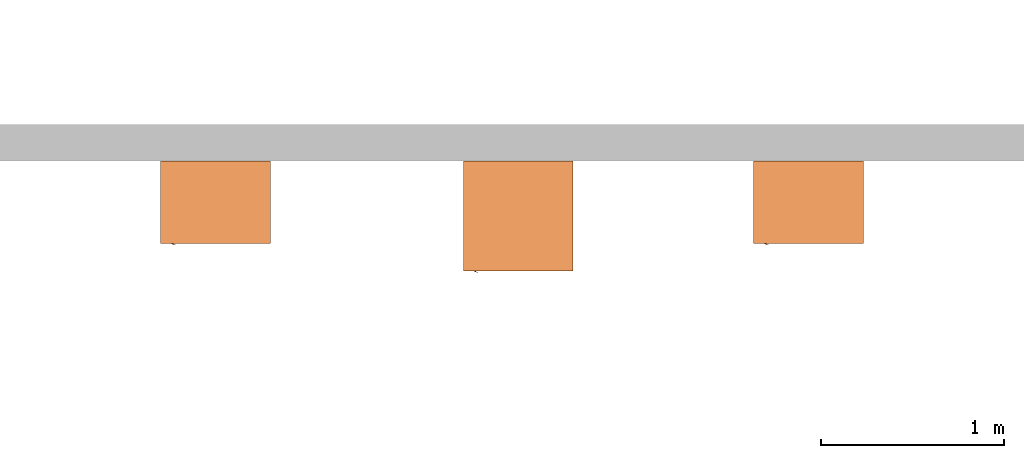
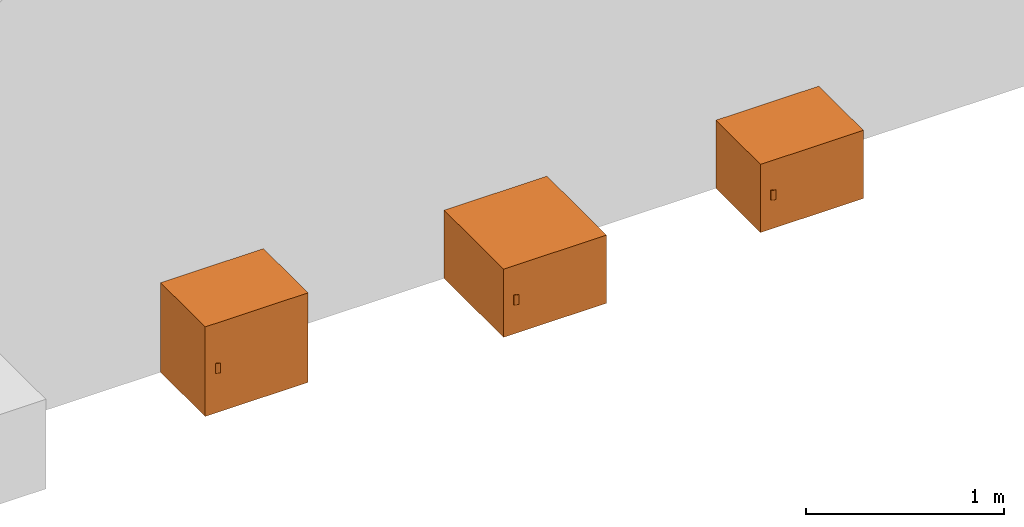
# One storey, part 50 of 197: 3 proxies.
"""IFC2X3 building model written with IfcOpenShell, lengths in metres."""

from ifc_helpers import new_model, entity, si_unit, converted_unit, direction, frame, frame_2d, origin, origin_2d_with_axis, place, context, subcontext, project, spatial, polyline, circle_curve, parameter, trimmed, segment, composite_curve, rectangle, outline, extrude, source, transform, mapped, material, material_list, type_object, type_shapes, element, save


model = new_model("IFC2X3")

# Units and contexts
model_context = context("Model", 3, precision=1e-05, world=origin(), true_north=direction((6.123031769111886e-17, 1.0)))
body_context = subcontext(model_context, "Body", "Model", "MODEL_VIEW")
ifc_project = project(units=[si_unit("LENGTHUNIT", "METRE"), converted_unit("PLANEANGLEUNIT", "DEGREE", entity("IfcPlaneAngleMeasure", 0.017453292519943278), si_unit("PLANEANGLEUNIT", "RADIAN"), dimensions=[0, 0, 0, 0, 0, 0, 0]), si_unit("AREAUNIT", "SQUARE_METRE")], contexts=[model_context])

# Site, building, storey
site_placement = place(None, origin())
site = spatial("IfcSite", under=ifc_project, at=site_placement, Name="Default", CompositionType="ELEMENT")
building_placement = place(site_placement, origin())
building = spatial("IfcBuilding", under=site, at=building_placement, CompositionType="ELEMENT")
storey_placement = place(building_placement, origin())
storey = spatial("IfcBuildingStorey", under=building, at=storey_placement, Name="Niveau 0", CompositionType="ELEMENT", Elevation=0.0)

# Proxies
ifc_material_1 = material(Name="A-PVC NOIR")
ifc_material_2 = material(Name="A-VERRE")
ifc_material_list = material_list([ifc_material_1, ifc_material_2])
building_element_proxy_type_1 = type_object("IfcBuildingElementProxyType", Name="Coffret de brassage mural:9U-600x450x500", PredefinedType="NOTDEFINED", material=ifc_material_list)
shared_shape_1 = source(origin(), body_context, "Body", "SweptSolid", [
    extrude(outline(composite_curve([segment(polyline([(0.0008223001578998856, -0.003777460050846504), (0.010844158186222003, -0.003777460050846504)]), True, "CONTINUOUS"), segment(polyline([(0.010844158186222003, -0.003777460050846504), (0.010844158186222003, -0.002873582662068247)]), True, "CONTINUOUS"), segment(trimmed(circle_curve(frame_2d((0.008844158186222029, -0.002873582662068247), x_axis=(-1.0, 0.0)), 0.002), [parameter(180.00000000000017)], [parameter(238.15936917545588)], True, "PARAMETER"), True, "CONTINUOUS"), segment(trimmed(circle_curve(frame_2d((-0.01427815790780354, -0.040107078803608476), x_axis=(-1.0, 0.0)), 0.04582892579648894), [parameter(238.1593691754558)], [parameter(270.2235478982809)], True, "PARAMETER"), True, "CONTINUOUS"), segment(polyline([(-0.01445696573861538, 0.005721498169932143), (-0.01445696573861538, 0.004721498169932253)]), True, "CONTINUOUS"), segment(polyline([(-0.01445696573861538, 0.004721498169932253), (-0.003495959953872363, 0.0011600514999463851)]), True, "CONTINUOUS"), segment(trimmed(circle_curve(frame_2d((-0.005473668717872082, -0.0049267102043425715), x_axis=(-1.0, 0.0)), 0.0064), [parameter(190.34473412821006)], [parameter(251.99999999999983)], True, "PARAMETER"), False, "CONTINUOUS")], self_intersect=False)), frame((-0.23015584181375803, -0.22877746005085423, 0.24599999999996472), z_axis=(0.0, 0.0, 1.0), x_axis=(-1.0, 0.0, 0.0)), (0.0, 0.0, 1.0), 0.06000000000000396),
    extrude(rectangle(XDim=0.4999999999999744, YDim=0.005000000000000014, at=origin_2d_with_axis()), frame((0.0, -0.22250000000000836, 0.05199999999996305)), (0.0, 0.0, 1.0), 0.4479999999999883),
    extrude(rectangle(XDim=0.5999999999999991, YDim=0.4499999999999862, at=origin_2d_with_axis()), frame((0.0, 0.0, 0.49999999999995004), z_axis=(0.0, 0.0, 1.0), x_axis=(-1.0, 0.0, 0.0)), (0.0, 0.0, 1.0), 0.05200000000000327),
    extrude(rectangle(XDim=0.6000000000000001, YDim=0.4499999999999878, at=origin_2d_with_axis()), frame((0.0, 0.0, 0.0), z_axis=(0.0, 0.0, 1.0), x_axis=(-1.0, 0.0, 0.0)), (0.0, 0.0, 1.0), 0.052000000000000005),
    extrude(outline(polyline([(-0.2999999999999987, -0.3156999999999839), (0.3000000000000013, -0.3156999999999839), (0.3000000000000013, 0.1343000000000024), (0.24999999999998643, 0.1343000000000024), (0.24999999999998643, 0.02429999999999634), (0.22499999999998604, 0.02429999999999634), (0.22499999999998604, 0.023299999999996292), (0.2509999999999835, 0.023299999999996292), (0.2509999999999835, 0.13329999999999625), (0.2989999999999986, 0.13329999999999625), (0.2989999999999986, -0.31469999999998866), (-0.2989999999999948, -0.31469999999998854), (-0.2989999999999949, 0.13329999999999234), (-0.25099999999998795, 0.13329999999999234), (-0.25099999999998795, 0.023299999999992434), (-0.2249999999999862, 0.023299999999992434), (-0.2249999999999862, 0.02429999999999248), (-0.24999999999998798, 0.02429999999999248), (-0.24999999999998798, 0.13430000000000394), (-0.2999999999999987, 0.13430000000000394), (-0.2999999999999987, -0.3156999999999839)])), frame((0.0, -0.09070000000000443, 0.05199999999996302), z_axis=(0.0, 0.0, 1.0), x_axis=(-1.0, 0.0, 0.0)), (0.0, 0.0, 1.0), 0.4479999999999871),
])
type_shapes(building_element_proxy_type_1, [shared_shape_1])
proxy_1_placement = place(storey_placement, frame((-487.87159512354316, -51.377644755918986, 0.0)))
element("IfcBuildingElementProxy", 1, at=proxy_1_placement, inside=storey, type_object=building_element_proxy_type_1, material=ifc_material_list, Name="Coffret de brassage mural:9U-600x450x500", ObjectType="Coffret de brassage mural:9U-600x450x500", context=body_context, shape_type="MappedRepresentation", body=[
    mapped(shared_shape_1, transform((0.0, 0.0, 0.0), scale=1.0)),
])
building_element_proxy_type_2 = type_object("IfcBuildingElementProxyType", Name="Coffret de brassage mural:6U-600x600x368", PredefinedType="NOTDEFINED", material=ifc_material_list)
shared_shape_2 = source(origin(), body_context, "Body", "SweptSolid", [
    extrude(outline(composite_curve([segment(polyline([(0.0008223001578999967, -0.003777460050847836), (0.010844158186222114, -0.003777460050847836)]), True, "CONTINUOUS"), segment(polyline([(0.010844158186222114, -0.003777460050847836), (0.010844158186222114, -0.0028735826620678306)]), True, "CONTINUOUS"), segment(trimmed(circle_curve(frame_2d((0.008844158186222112, -0.0028735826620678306), x_axis=(-1.0, 0.0)), 0.002), [parameter(180.00000000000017)], [parameter(238.15936917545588)], True, "PARAMETER"), True, "CONTINUOUS"), segment(trimmed(circle_curve(frame_2d((-0.014278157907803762, -0.04010707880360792), x_axis=(-1.0, 0.0)), 0.04582892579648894), [parameter(238.1593691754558)], [parameter(270.2235478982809)], True, "PARAMETER"), True, "CONTINUOUS"), segment(polyline([(-0.014456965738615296, 0.0057214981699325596), (-0.014456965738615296, 0.004721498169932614)]), True, "CONTINUOUS"), segment(polyline([(-0.014456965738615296, 0.004721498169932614), (-0.0034959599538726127, 0.001160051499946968)]), True, "CONTINUOUS"), segment(trimmed(circle_curve(frame_2d((-0.005473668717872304, -0.004926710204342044), x_axis=(-1.0, 0.0)), 0.0064), [parameter(190.34473412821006)], [parameter(251.99999999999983)], True, "PARAMETER"), False, "CONTINUOUS")], self_intersect=False)), frame((-0.23015584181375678, -0.30377746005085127, 0.17999999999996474), z_axis=(0.0, 0.0, 1.0), x_axis=(-1.0, 0.0, 0.0)), (0.0, 0.0, 1.0), 0.06000000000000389),
    extrude(rectangle(XDim=0.4999999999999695, YDim=0.005000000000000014, at=origin_2d_with_axis()), frame((0.0, -0.2975000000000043, 0.05199999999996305)), (0.0, 0.0, 1.0), 0.3159999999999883),
    extrude(rectangle(XDim=0.5999999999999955, YDim=0.5999999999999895, at=origin_2d_with_axis()), frame((0.0, 0.0, 0.36799999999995), z_axis=(0.0, 0.0, 1.0), x_axis=(-1.0, 0.0, 0.0)), (0.0, 0.0, 1.0), 0.05200000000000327),
    extrude(rectangle(XDim=0.5999999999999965, YDim=0.5999999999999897, at=origin_2d_with_axis()), frame((0.0, 0.0, 0.0), z_axis=(0.0, 0.0, 1.0), x_axis=(-1.0, 0.0, 0.0)), (0.0, 0.0, 1.0), 0.052000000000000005),
    extrude(outline(polyline([(-0.2999999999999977, -0.435699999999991), (0.2999999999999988, -0.435699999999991), (0.2999999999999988, 0.16429999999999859), (0.24999999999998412, 0.16429999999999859), (0.24999999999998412, 0.05429999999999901), (0.2249999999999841, 0.05429999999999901), (0.2249999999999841, 0.053299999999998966), (0.2509999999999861, 0.053299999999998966), (0.2509999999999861, 0.16329999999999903), (0.29899999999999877, 0.16329999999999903), (0.29899999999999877, -0.4346999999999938), (-0.2989999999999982, -0.4346999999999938), (-0.2989999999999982, 0.16329999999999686), (-0.2509999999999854, 0.16329999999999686), (-0.2509999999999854, 0.05329999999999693), (-0.22499999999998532, 0.05329999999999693), (-0.22499999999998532, 0.05429999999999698), (-0.2499999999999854, 0.05429999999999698), (-0.2499999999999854, 0.16429999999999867), (-0.2999999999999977, 0.16429999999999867), (-0.2999999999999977, -0.435699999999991)])), frame((0.0, -0.13570000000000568, 0.05199999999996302), z_axis=(0.0, 0.0, 1.0), x_axis=(-1.0, 0.0, 0.0)), (0.0, 0.0, 1.0), 0.31599999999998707),
])
type_shapes(building_element_proxy_type_2, [shared_shape_2])
proxy_2_placement = place(storey_placement, frame((-486.21859512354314, -51.45264475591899, 0.0)))
element("IfcBuildingElementProxy", 2, at=proxy_2_placement, inside=storey, type_object=building_element_proxy_type_2, material=ifc_material_list, Name="Coffret de brassage mural:6U-600x600x368", ObjectType="Coffret de brassage mural:6U-600x600x368", context=body_context, shape_type="MappedRepresentation", body=[
    mapped(shared_shape_2, transform((0.0, 0.0, 0.0), scale=1.0)),
])
building_element_proxy_type_3 = type_object("IfcBuildingElementProxyType", Name="Coffret de brassage mural:6U-600x450x368", PredefinedType="NOTDEFINED", material=ifc_material_list)
shared_shape_3 = source(origin(), body_context, "Body", "SweptSolid", [
    extrude(outline(composite_curve([segment(polyline([(0.0008223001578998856, -0.003777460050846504), (0.010844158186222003, -0.003777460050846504)]), True, "CONTINUOUS"), segment(polyline([(0.010844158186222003, -0.003777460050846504), (0.010844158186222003, -0.002873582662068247)]), True, "CONTINUOUS"), segment(trimmed(circle_curve(frame_2d((0.008844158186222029, -0.002873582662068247), x_axis=(-1.0, 0.0)), 0.002), [parameter(180.00000000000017)], [parameter(238.15936917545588)], True, "PARAMETER"), True, "CONTINUOUS"), segment(trimmed(circle_curve(frame_2d((-0.01427815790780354, -0.040107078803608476), x_axis=(-1.0, 0.0)), 0.04582892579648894), [parameter(238.1593691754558)], [parameter(270.2235478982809)], True, "PARAMETER"), True, "CONTINUOUS"), segment(polyline([(-0.01445696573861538, 0.005721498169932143), (-0.01445696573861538, 0.004721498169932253)]), True, "CONTINUOUS"), segment(polyline([(-0.01445696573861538, 0.004721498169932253), (-0.003495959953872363, 0.0011600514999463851)]), True, "CONTINUOUS"), segment(trimmed(circle_curve(frame_2d((-0.005473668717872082, -0.0049267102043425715), x_axis=(-1.0, 0.0)), 0.0064), [parameter(190.34473412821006)], [parameter(251.99999999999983)], True, "PARAMETER"), False, "CONTINUOUS")], self_intersect=False)), frame((-0.23015584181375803, -0.22877746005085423, 0.17999999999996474), z_axis=(0.0, 0.0, 1.0), x_axis=(-1.0, 0.0, 0.0)), (0.0, 0.0, 1.0), 0.06000000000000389),
    extrude(rectangle(XDim=0.4999999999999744, YDim=0.005000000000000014, at=origin_2d_with_axis()), frame((0.0, -0.22250000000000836, 0.05199999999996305)), (0.0, 0.0, 1.0), 0.3159999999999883),
    extrude(rectangle(XDim=0.5999999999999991, YDim=0.4499999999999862, at=origin_2d_with_axis()), frame((0.0, 0.0, 0.36799999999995), z_axis=(0.0, 0.0, 1.0), x_axis=(-1.0, 0.0, 0.0)), (0.0, 0.0, 1.0), 0.05200000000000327),
    extrude(rectangle(XDim=0.6000000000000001, YDim=0.4499999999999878, at=origin_2d_with_axis()), frame((0.0, 0.0, 0.0), z_axis=(0.0, 0.0, 1.0), x_axis=(-1.0, 0.0, 0.0)), (0.0, 0.0, 1.0), 0.052000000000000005),
    extrude(outline(polyline([(-0.2999999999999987, -0.3156999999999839), (0.3000000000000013, -0.3156999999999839), (0.3000000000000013, 0.1343000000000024), (0.24999999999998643, 0.1343000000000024), (0.24999999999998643, 0.02429999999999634), (0.22499999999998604, 0.02429999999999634), (0.22499999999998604, 0.023299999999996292), (0.2509999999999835, 0.023299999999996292), (0.2509999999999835, 0.13329999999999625), (0.2989999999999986, 0.13329999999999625), (0.2989999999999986, -0.31469999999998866), (-0.2989999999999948, -0.31469999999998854), (-0.2989999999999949, 0.13329999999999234), (-0.25099999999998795, 0.13329999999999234), (-0.25099999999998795, 0.023299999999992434), (-0.2249999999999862, 0.023299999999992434), (-0.2249999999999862, 0.02429999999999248), (-0.24999999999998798, 0.02429999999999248), (-0.24999999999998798, 0.13430000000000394), (-0.2999999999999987, 0.13430000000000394), (-0.2999999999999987, -0.3156999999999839)])), frame((0.0, -0.09070000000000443, 0.05199999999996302), z_axis=(0.0, 0.0, 1.0), x_axis=(-1.0, 0.0, 0.0)), (0.0, 0.0, 1.0), 0.31599999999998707),
])
type_shapes(building_element_proxy_type_3, [shared_shape_3])
proxy_3_placement = place(storey_placement, frame((-484.63359512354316, -51.377644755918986, 0.0)))
element("IfcBuildingElementProxy", 3, at=proxy_3_placement, inside=storey, type_object=building_element_proxy_type_3, material=ifc_material_list, Name="Coffret de brassage mural:6U-600x450x368", ObjectType="Coffret de brassage mural:6U-600x450x368", context=body_context, shape_type="MappedRepresentation", body=[
    mapped(shared_shape_3, transform((0.0, 0.0, 0.0), scale=1.0)),
])

save(model, "model.ifc")
